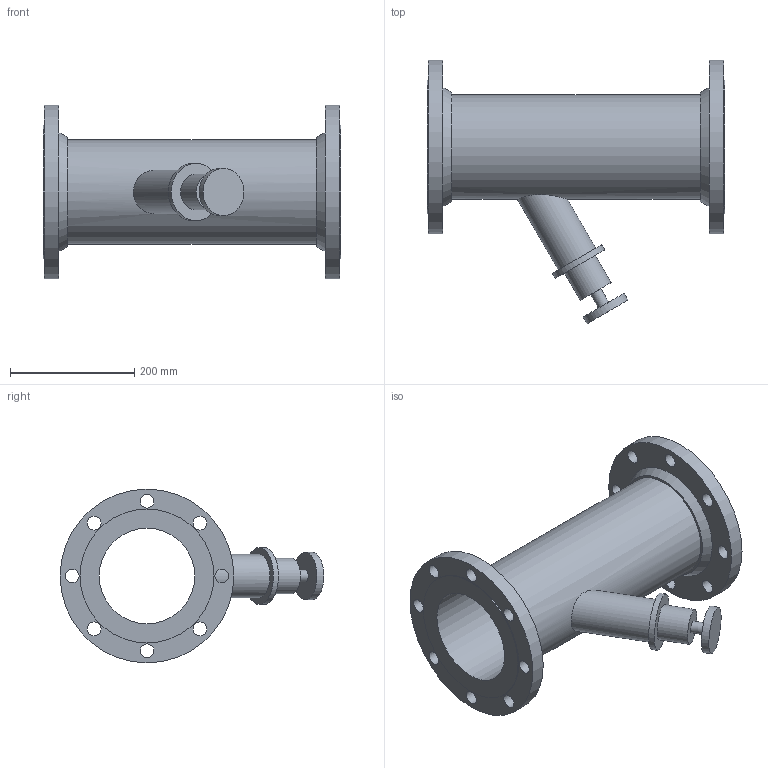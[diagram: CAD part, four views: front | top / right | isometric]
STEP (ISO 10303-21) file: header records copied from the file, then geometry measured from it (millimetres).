
FILE_DESCRIPTION(/* description */ ('VIC TA CIRCUIT BALANCING VALVE SERIES 788 (FLG)','CAx-IF Rec.Pracs.---Representation and Presentation of Product Manufacturing Information (PMI)---4.0---2014-10-13'),/* implementation_level */ '2;1');
FILE_NAME(/* name */ 'C:\Users\Vjadhav\AppData\Roaming\Autodesk\ApplicationPlugins\Back Up\Victaulic-IPS-TA Balancing Valve Series 788\Victaulic-IPS-TA Balancing Valve Series 788_6 (150).stp',/* time_stamp */ '2020-03-19T19:19:46+06:00',/* author */ ('cps_temp'),/* organization */ ('Victaulic'),/* preprocessor_version */ 'ST-DEVELOPER v17.2',/* originating_system */ 'Autodesk Inventor 2019',/* authorisation */ '');
FILE_SCHEMA (('AP242_MANAGED_MODEL_BASED_3D_ENGINEERING_MIM_LF { 1 0 10303 442 1 1 4 }'));
Length unit declared in the file: inch
Products named in the file (1): 788-06.0
Bounding box: 480.06 x 424.94 x 279.91 mm (x, y, z)
Volume: 4313232.3 mm3; surface area: 731674.6 mm2
Topology: 1 solids, 1 shells, 42 faces, 115 edges, 85 vertices
Faces by surface type: cylinder 27, plane 13, cone 2
Full cylindrical faces by diameter (mm): 19.05 x1, 22.352 x16, 57.15 x1, 69.85 x1, 76.2 x1, 92.05 x1, 154.051 x1, 168.275 x1, 215.9 x2, 279.908 x2
Entity records: 1724 total; most frequent: CARTESIAN_POINT 327, DIRECTION 306, ORIENTED_EDGE 230, AXIS2_PLACEMENT_3D 138, EDGE_CURVE 115, EDGE_LOOP 86, VERTEX_POINT 85, CIRCLE 82
